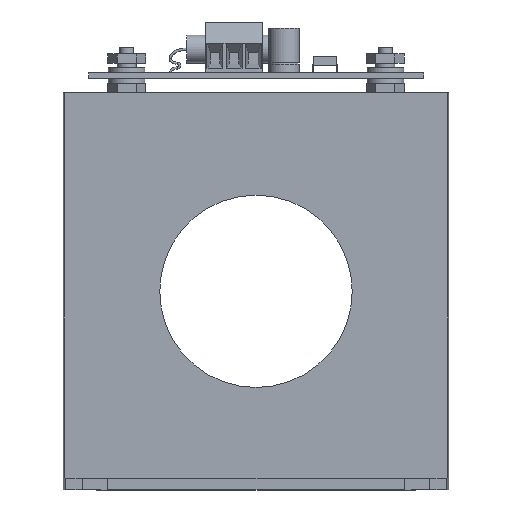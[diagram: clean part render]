
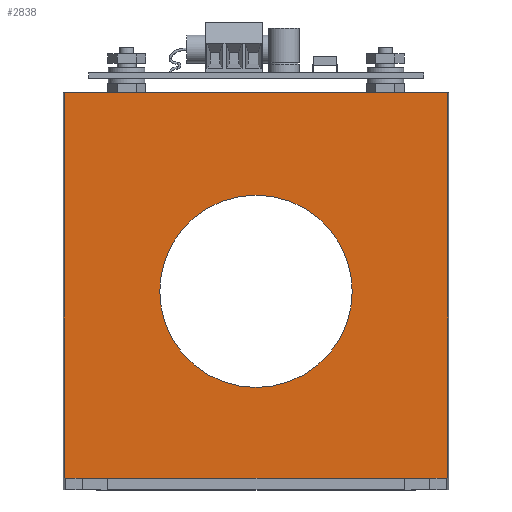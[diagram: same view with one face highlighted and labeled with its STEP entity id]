
A CAD part, front view. The second image highlights one B-rep face of the part: STEP entity #2838.
In plain terms, the highlighted planar face has unit normal (0, -1, 0).
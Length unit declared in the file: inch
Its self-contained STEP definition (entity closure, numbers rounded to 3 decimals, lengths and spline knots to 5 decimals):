
#200=LINE($,#4882,#519);
#267=LINE($,#5026,#586);
#282=LINE($,#5050,#601);
#286=LINE($,#5058,#605);
#519=VECTOR($,#3497,4.08575);
#586=VECTOR($,#3604,4.08575);
#601=VECTOR($,#3629,4.109);
#605=VECTOR($,#3641,4.109);
#706=FACE_BOUND($,#1046,.T.);
#845=FACE_OUTER_BOUND($,#1045,.T.);
#1045=EDGE_LOOP($,(#2367,#2368,#2369,#2370));
#1046=EDGE_LOOP($,(#2371));
#1132=CIRCLE($,#3005,1.025);
#1300=VERTEX_POINT($,#4879);
#1301=VERTEX_POINT($,#4881);
#1316=VERTEX_POINT($,#4913);
#1357=VERTEX_POINT($,#5024);
#1358=VERTEX_POINT($,#5025);
#1619=EDGE_CURVE($,#1301,#1300,#200,.T.);
#1635=EDGE_CURVE($,#1316,#1316,#1132,.T.);
#1688=EDGE_CURVE($,#1357,#1358,#267,.T.);
#1703=EDGE_CURVE($,#1301,#1357,#282,.T.);
#1707=EDGE_CURVE($,#1300,#1358,#286,.T.);
#2367=ORIENTED_EDGE($,*,*,#1703,.F.);
#2368=ORIENTED_EDGE($,*,*,#1619,.T.);
#2369=ORIENTED_EDGE($,*,*,#1707,.T.);
#2370=ORIENTED_EDGE($,*,*,#1688,.F.);
#2371=ORIENTED_EDGE($,*,*,#1635,.T.);
#2675=PLANE($,#3032);
#2838=ADVANCED_FACE($,(#845,#706),#2675,.T.);
#3005=AXIS2_PLACEMENT_3D($,#4914,#3516,#3517);
#3032=AXIS2_PLACEMENT_3D($,#5059,#3642,#3643);
#3497=DIRECTION($,(-1.,0.,0.));
#3516=DIRECTION('center_axis',(0.,1.,0.));
#3517=DIRECTION('ref_axis',(-0.814,0.,-0.581));
#3604=DIRECTION($,(-1.,0.,0.));
#3629=DIRECTION($,(0.,0.,-1.));
#3641=DIRECTION($,(0.,0.,-1.));
#3642=DIRECTION('center_axis',(0.,-1.,0.));
#3643=DIRECTION('ref_axis',(0.,0.,-1.));
#4879=CARTESIAN_POINT('',(13.21813,28.00761,4.234));
#4881=CARTESIAN_POINT('',(17.30388,28.00761,4.234));
#4882=CARTESIAN_POINT($,(17.30388,28.00761,4.234));
#4913=CARTESIAN_POINT('',(14.23601,28.00761,2.117));
#4914=CARTESIAN_POINT('Origin',(15.26101,28.00761,2.117));
#5024=CARTESIAN_POINT('',(17.30388,28.00761,0.125));
#5025=CARTESIAN_POINT('',(13.21813,28.00761,0.125));
#5026=CARTESIAN_POINT($,(17.30388,28.00761,0.125));
#5050=CARTESIAN_POINT($,(17.30388,28.00761,4.234));
#5058=CARTESIAN_POINT($,(13.21813,28.00761,4.234));
#5059=CARTESIAN_POINT('Origin',(15.26101,28.00761,4.234));
